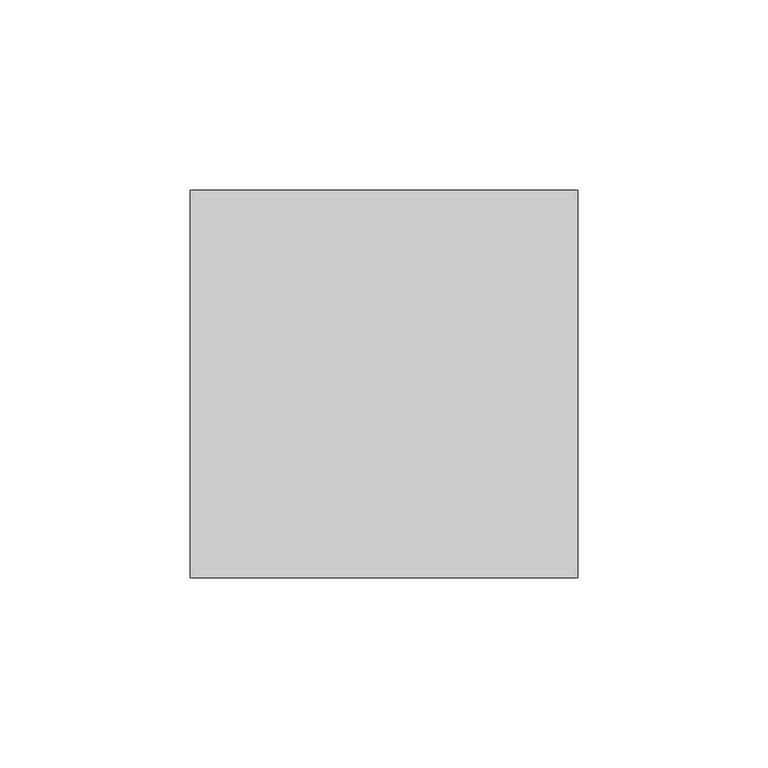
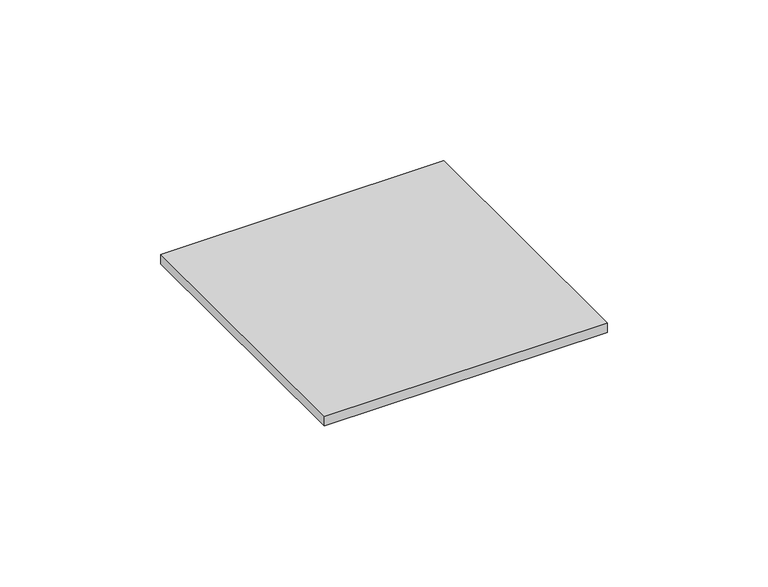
"""IFC4 building model written with IfcOpenShell, lengths in millimetres: pipe fitting geometry, Z_Amanco Esgoto Caixa Sif Grelha Vórtice Quadrada (Nested) : Plástica Branca."""

import ifcopenshell
import ifcopenshell.guid

model = None  # the IFC model being written
_history = None  # IfcOwnerHistory: only IFC2X3 demands one
_inside = {}  # id of a spatial element -> (the spatial element, [elements in it])
_under = {}  # id of a project, library or spatial element -> (it, [spatial elements below it])
_declared = {}  # id of a project -> (the project, [libraries it declares])
_typed = {}  # id of a type object -> (the type object, [elements of that type])
_made_of = {}  # id of a material, layer set ... -> (it, [elements and type objects made of it])


def new_model(schema):
    """Start an empty IFC model of exactly this schema.

    Asked for "IFC4X3", IfcOpenShell would pick the latest addendum, in which some entities
    have other attributes; the version numbers below select the first issue.
    IFC2X3 requires an IfcOwnerHistory on every rooted entity: one is made here for all.
    """
    global model, _history
    if schema == "IFC4X3":
        model = ifcopenshell.file(schema_version=(4, 3, 0, 0))
    else:
        model = ifcopenshell.file(schema=schema)
    _inside.clear()
    _under.clear()
    _declared.clear()
    _typed.clear()
    _made_of.clear()
    _history = None
    if model.schema == "IFC2X3":
        org = make("IfcOrganization", Name="unknown")
        user = make(
            "IfcPersonAndOrganization",
            ThePerson=make("IfcPerson", FamilyName="unknown"),
            TheOrganization=org,
        )
        app = make(
            "IfcApplication",
            ApplicationDeveloper=org,
            Version="unknown",
            ApplicationFullName="unknown",
            ApplicationIdentifier="unknown",
        )
        _history = make(
            "IfcOwnerHistory",
            OwningUser=user,
            OwningApplication=app,
            ChangeAction="ADDED",
            CreationDate=0,
        )
    return model


def make(cls, **values):
    """One entity of the class cls with the attributes given. An attribute that is None is left unset."""
    return model.create_entity(
        cls, **{name: value for name, value in values.items() if value is not None}
    )


def rooted(cls, **values):
    """An entity with a GlobalId (a new one), such as an element, a storey or a relation."""
    return make(cls, GlobalId=ifcopenshell.guid.new(), OwnerHistory=_history, **values)


def si_unit(unit_type, name, prefix=None):
    """IfcSIUnit, for example si_unit("LENGTHUNIT", "METRE", prefix="MILLI")."""
    return make("IfcSIUnit", UnitType=unit_type, Prefix=prefix, Name=name)


def assignment(units):
    """IfcUnitAssignment: the units of a project."""
    return None if units is None else make("IfcUnitAssignment", Units=units)


def point(xyz):
    """IfcCartesianPoint."""
    return None if xyz is None else make("IfcCartesianPoint", Coordinates=xyz)


def direction(xyz):
    """IfcDirection."""
    return None if xyz is None else make("IfcDirection", DirectionRatios=xyz)


def frame(location, z_axis=None, x_axis=None):
    """IfcAxis2Placement3D, a coordinate frame: its origin and axes. An axis left out is left unset."""
    return make(
        "IfcAxis2Placement3D",
        Location=point(location),
        Axis=direction(z_axis),
        RefDirection=direction(x_axis),
    )


def origin():
    """The frame at (0, 0, 0) with its axes left unset."""
    return frame((0.0, 0.0, 0.0))


def place(relative_to, where):
    """IfcLocalPlacement: puts the frame where relative to a parent placement (None: the world)."""
    return make(
        "IfcLocalPlacement", PlacementRelTo=relative_to, RelativePlacement=where
    )


def context(
    kind, dimensions, precision=None, world=None, true_north=None, identifier=None
):
    """IfcGeometricRepresentationContext, for example the 3D "Model" context."""
    return make(
        "IfcGeometricRepresentationContext",
        ContextIdentifier=identifier,
        ContextType=kind,
        CoordinateSpaceDimension=dimensions,
        Precision=precision,
        WorldCoordinateSystem=world,
        TrueNorth=true_north,
    )


def project(units=None, contexts=None):
    """IfcProject with its units and contexts."""
    return rooted(
        "IfcProject",
        Name="project",
        RepresentationContexts=contexts,
        UnitsInContext=assignment(units),
    )


def spatial(cls, under=None, at=None, **own):
    """A site, building, storey or space (cls), placed at a placement, below another one or the project."""
    s = rooted(cls, ObjectPlacement=at, **own)
    if under is not None:
        _under.setdefault(under.id(), (under, []))[1].append(s)
    return s


def polyline(points):
    """IfcPolyline through the points."""
    return make("IfcPolyline", Points=[point(p) for p in points])


def outline(outer, holes=None, kind="AREA"):
    """IfcArbitraryClosedProfileDef: a profile drawn as a closed curve; with holes, ...WithVoids."""
    if holes is None:
        return make("IfcArbitraryClosedProfileDef", ProfileType=kind, OuterCurve=outer)
    return make(
        "IfcArbitraryProfileDefWithVoids",
        ProfileType=kind,
        OuterCurve=outer,
        InnerCurves=holes,
    )


def extrude(swept, where, along, depth):
    """IfcExtrudedAreaSolid: the profile swept, set in the frame where, extruded along a direction by depth."""
    return make(
        "IfcExtrudedAreaSolid",
        SweptArea=swept,
        Position=where,
        ExtrudedDirection=direction(along),
        Depth=depth,
    )


def shape(context_of_items, identifier, shape_type, items):
    """IfcShapeRepresentation: the items that make up one representation, for example the "Body"."""
    return make(
        "IfcShapeRepresentation",
        ContextOfItems=context_of_items,
        RepresentationIdentifier=identifier,
        RepresentationType=shape_type,
        Items=items,
    )


def source(mapping_origin, context_of_items, identifier, shape_type, items):
    """IfcRepresentationMap: a shape defined once, which mapped items show again and again."""
    return make(
        "IfcRepresentationMap",
        MappingOrigin=mapping_origin,
        MappedRepresentation=shape(context_of_items, identifier, shape_type, items),
    )


def transform(
    local_origin,
    x_axis=None,
    y_axis=None,
    z_axis=None,
    scale=None,
    scale2=None,
    scale3=None,
    uniform=True,
):
    """IfcCartesianTransformationOperator3D, or its non-uniform kind. x_axis, y_axis, z_axis: its Axis1, 2, 3."""
    if uniform:
        return make(
            "IfcCartesianTransformationOperator3D",
            Axis1=direction(x_axis),
            Axis2=direction(y_axis),
            LocalOrigin=point(local_origin),
            Scale=scale,
            Axis3=direction(z_axis),
        )
    return make(
        "IfcCartesianTransformationOperator3DnonUniform",
        Axis1=direction(x_axis),
        Axis2=direction(y_axis),
        LocalOrigin=point(local_origin),
        Scale=scale,
        Axis3=direction(z_axis),
        Scale2=scale2,
        Scale3=scale3,
    )


def mapped(mapping_source, mapping_target):
    """IfcMappedItem: shows the shape of a source again, moved by a transform."""
    return make(
        "IfcMappedItem", MappingSource=mapping_source, MappingTarget=mapping_target
    )


def made_of(thing, what):
    """Note that an element or type object is made of a material, layer set ...; save() writes the relation."""
    if what is not None:
        _made_of.setdefault(what.id(), (what, []))[1].append(thing)
    return thing


def element(
    cls,
    number,
    at=None,
    inside=None,
    cuts=None,
    type_object=None,
    material=None,
    context=None,
    identifier="Body",
    shape_type=None,
    held_by="IfcProductDefinitionShape",
    body=None,
    shapes=None,
    **own,
):
    """One element of the class cls, such as IfcWall. Its Tag is "e" and its number.

    at: its placement. inside: the storey or other place that contains it. cuts: it is an
    opening in that element (IfcRelVoidsElement). A single representation is given by context,
    identifier, shape_type and body (its items); several are given by shapes. held_by: the class
    of the entity that holds the representations. save() writes the other relations.
    """
    e = rooted(cls, Tag="e%d" % number, ObjectPlacement=at, **own)
    if body is not None:
        shapes = [shape(context, identifier, shape_type, body)]
    if shapes is not None:
        e.Representation = make(held_by, Representations=shapes)
    if inside is not None:
        _inside.setdefault(inside.id(), (inside, []))[1].append(e)
    if cuts is not None:
        rooted(
            "IfcRelVoidsElement", RelatingBuildingElement=cuts, RelatedOpeningElement=e
        )
    if type_object is not None:
        _typed.setdefault(type_object.id(), (type_object, []))[1].append(e)
    return made_of(e, material)


def aggregate(whole, parts):
    """IfcRelAggregates: a whole, such as a stair, and the parts it consists of."""
    return rooted("IfcRelAggregates", RelatingObject=whole, RelatedObjects=parts)


def save(model, path):
    """Write the relations noted so far, then the file.

    IfcRelAggregates (storeys below a building ...), IfcRelContainedInSpatialStructure (elements
    in a storey), IfcRelDefinesByType, IfcRelAssociatesMaterial and IfcRelDeclares: one each for
    every whole, place, type object, material and project.
    """
    for whole, parts in _under.values():
        aggregate(whole, parts)
    for where, things in _inside.values():
        rooted(
            "IfcRelContainedInSpatialStructure",
            RelatedElements=things,
            RelatingStructure=where,
        )
    for kind, things in _typed.values():
        rooted("IfcRelDefinesByType", RelatedObjects=things, RelatingType=kind)
    for what, things in _made_of.values():
        rooted("IfcRelAssociatesMaterial", RelatedObjects=things, RelatingMaterial=what)
    for by, libraries in _declared.values():
        rooted("IfcRelDeclares", RelatingContext=by, RelatedDefinitions=libraries)
    model.write(path)


def pipe_fitting_47652752(model_context):
    return source(origin(), model_context, "Body", "SweptSolid", [
        extrude(outline(polyline([(-50.8, -50.8), (-50.8, 50.8), (50.8, 50.8), (50.8, -50.8), (-50.8, -50.8)])), frame((0.0, 0.0, -3.5), z_axis=(0.0, 0.0, 1.0), x_axis=(1.0, 0.0, 0.0)), (0.0, 0.0, 1.0), 3.6),
    ])


if __name__ == "__main__":
    model = new_model("IFC4")
    model_context = context("Model", 3, world=origin())
    ifc_project = project(units=[si_unit("LENGTHUNIT", "METRE", prefix="MILLI")], contexts=[model_context])
    site = spatial("IfcSite", under=ifc_project)
    building = spatial("IfcBuilding", under=site)
    placement = place(None, origin())
    pipe_fitting_shape = pipe_fitting_47652752(model_context)
    element("IfcPipeFitting", 1, ObjectType="Z_Amanco Esgoto Caixa Sif Grelha Vórtice Quadrada (Nested) : Plástica Branca", at=placement, inside=building, context=model_context, shape_type="MappedRepresentation", body=[
        mapped(pipe_fitting_shape, transform((0.0, 0.0, 0.0), x_axis=(1.0, 0.0, 0.0), y_axis=(0.0, 1.0, 0.0), z_axis=(0.0, 0.0, 1.0))),
    ])
    save(model, "model.ifc")
